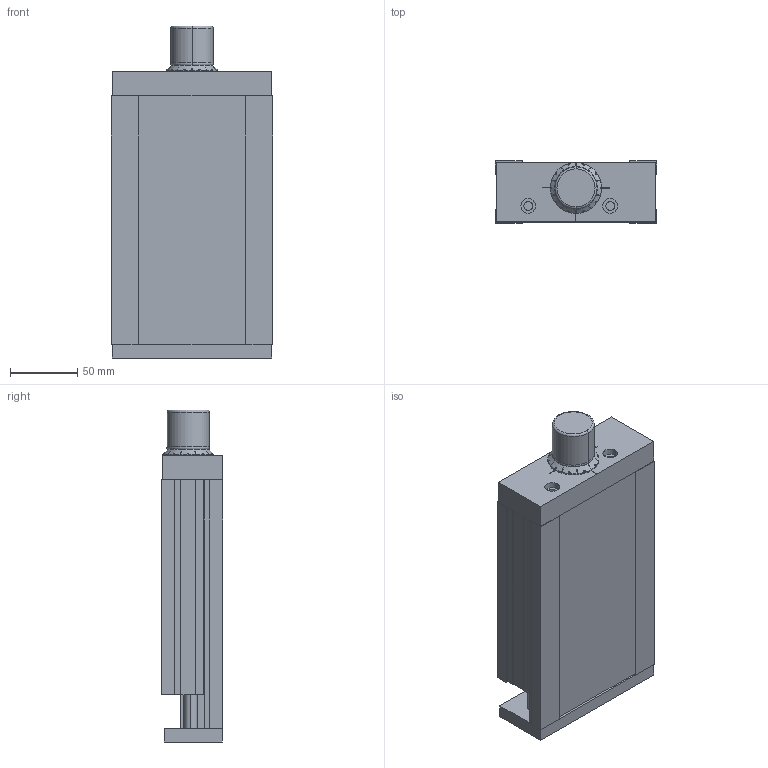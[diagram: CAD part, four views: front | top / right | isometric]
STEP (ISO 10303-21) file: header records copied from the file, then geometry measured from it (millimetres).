
FILE_DESCRIPTION (( 'STEP AP203' ), '1' );
FILE_NAME ('domiLINE 120 Hub 25.STEP', '2004-08-13T08:19:38', ( '' ), ( '' ), 'SwSTEP 2.0', 'SolidWorks 2004073', '' );
FILE_SCHEMA (( 'CONFIG_CONTROL_DESIGN' ));
Length unit declared in the file: millimetre
Products named in the file (3): dL 120 light-+-D013323_ _Hub25; Aussenteil neu 120 light-+-D005509_ _Standard; domiLINE 120 Hub 25
Assembly tree (2 placements, depth 2):
  domiLINE 120 Hub 25
    Aussenteil neu 120 light-+-D005509_ _Standard
    dL 120 light-+-D013323_ _Hub25
Bounding box: 120 x 46 x 247 mm (x, y, z)
Volume: 978878.1 mm3; surface area: 183290.2 mm2
Topology: 2 solids, 3 shells, 262 faces, 703 edges, 464 vertices
Faces by surface type: plane 156, cylinder 59, cone 23, bspline 20, torus 4
Entity records: 9051 total; most frequent: CARTESIAN_POINT 2336, ORIENTED_EDGE 1406, DIRECTION 1222, EDGE_CURVE 703, VERTEX_POINT 464, VECTOR 450, LINE 450, AXIS2_PLACEMENT_3D 386
